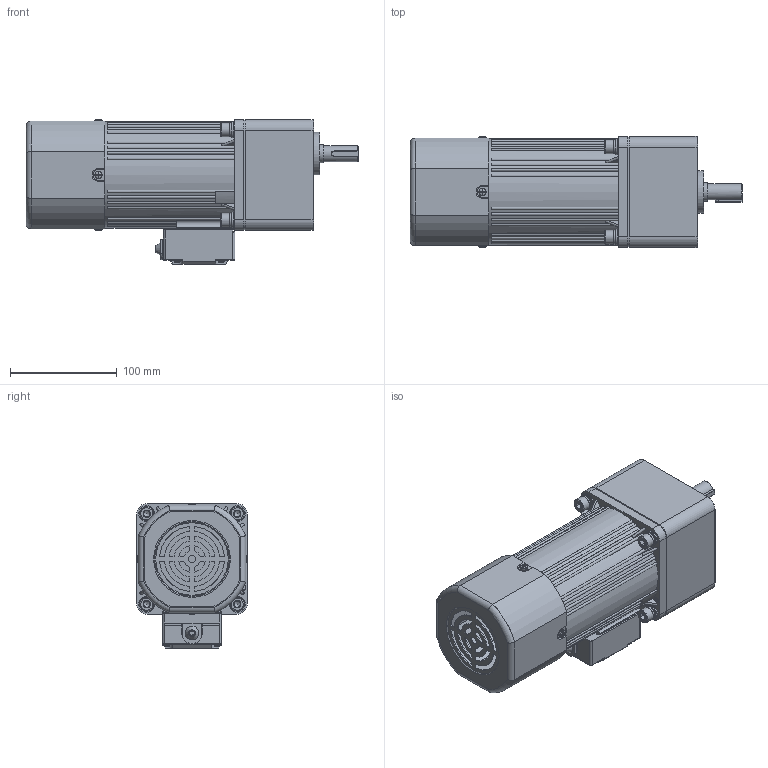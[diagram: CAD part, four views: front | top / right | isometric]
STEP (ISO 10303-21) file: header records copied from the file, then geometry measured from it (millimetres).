
FILE_DESCRIPTION(/* description */ (''),/* implementation_level */ '2;1');
FILE_NAME(/* name */ '6RK160-200RGUC·TMF_6GU3-750K-C·15L长款接线盒.stp',/* time_stamp */ '2025-04-13T16:57:05+08:00',/* author */ (''),/* organization */ (''),/* preprocessor_version */ 'ST-DEVELOPER v18.102',/* originating_system */ 'SIEMENS PLM Software NX 2027',/* authorisation */ '');
FILE_SCHEMA (('AP203_CONFIGURATION_CONTROLLED_3D_DESIGN_OF_MECHANICAL_PARTS_AND_ASSEMBLIES_MIM_LF { 1 0 10303 403 2 1 2}'));
Length unit declared in the file: millimetre
Products named in the file (1): 6RK160-200CC·MRF_6GU3-750K-C·15L_stp_M066263C6523
muju
Bounding box: 311.5 x 104.06 x 136.03 mm (x, y, z)
Volume: 1008141.2 mm3; surface area: 314260 mm2
Topology: 22 solids, 23 shells, 1761 faces, 4612 edges, 2961 vertices
Faces by surface type: plane 776, cylinder 546, bspline 180, cone 120, torus 103, sphere 36
Full cylindrical faces by diameter (mm): 2.2 x2, 2.5 x2, 2.9 x4, 3.3 x4, 3.5 x6, 3.6 x4, 4 x5, 4.2 x1, 4.55 x1, 4.8 x1, 5.15 x1, 5.6 x4, 6 x2, 6.8 x16, 7 x2, 7.76 x4, 8 x1, 8.4 x4, 8.5 x4, 9 x4, 10 x2, 13 x5, 14 x5, 15 x6, 15.5 x1, 17 x1, 17.3 x1, 19 x1, 27 x1, 28 x1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
Entity records: 54540 total; most frequent: CARTESIAN_POINT 13021, ORIENTED_EDGE 8480, DIRECTION 8249, EDGE_CURVE 4240, AXIS2_PLACEMENT_3D 3167, VERTEX_POINT 2833, EDGE_LOOP 2156, LINE 1915
